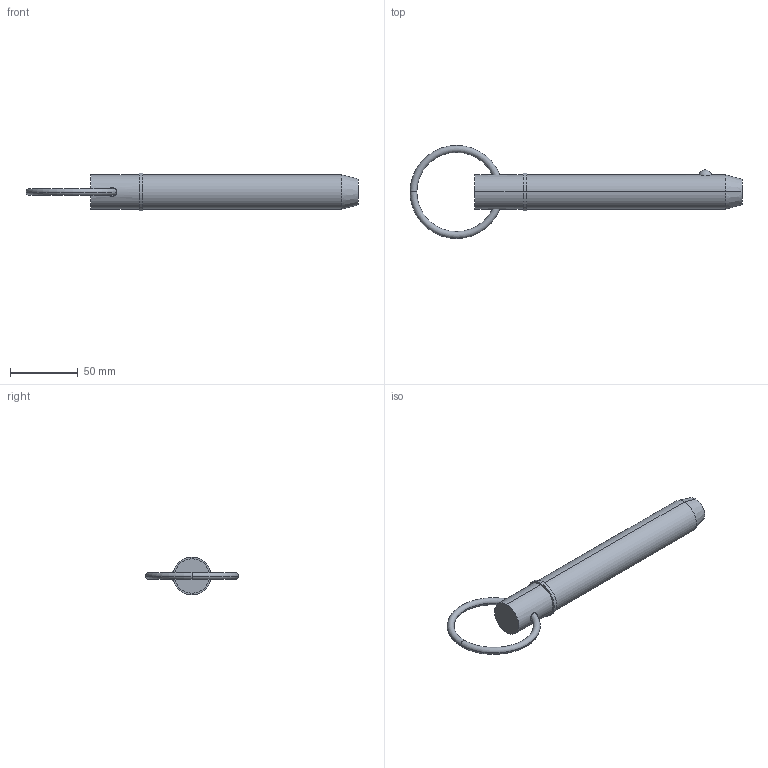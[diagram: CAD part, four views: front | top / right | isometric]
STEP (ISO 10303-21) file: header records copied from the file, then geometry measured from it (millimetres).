
FILE_DESCRIPTION (( 'STEP AP203' ), '1' );
FILE_NAME ('33016.W1050.step', '2024-11-07T11:19:00', ( '' ), ( '' ), 'SwSTEP 2.0', 'SolidWorks 2019', '' );
FILE_SCHEMA (( 'CONFIG_CONTROL_DESIGN' ));
Length unit declared in the file: millimetre
Products named in the file (3): Part2_33016.W1050; Part1_33016.W1050; 33016.W1050
Assembly tree (2 placements, depth 2):
  33016.W1050
    Part1_33016.W1050
    Part2_33016.W1050
Bounding box: 244.62 x 68.58 x 27.94 mm (x, y, z)
Volume: 102023 mm3; surface area: 20320.6 mm2
Topology: 2 solids, 2 shells, 22 faces, 43 edges, 26 vertices
Faces by surface type: torus 8, cylinder 6, plane 4, sphere 2, cone 2
Entity records: 1075 total; most frequent: CARTESIAN_POINT 298, DIRECTION 120, ORIENTED_EDGE 86, AXIS2_PLACEMENT_3D 56, EDGE_CURVE 43, CIRCLE 29, EDGE_LOOP 27, VERTEX_POINT 26
